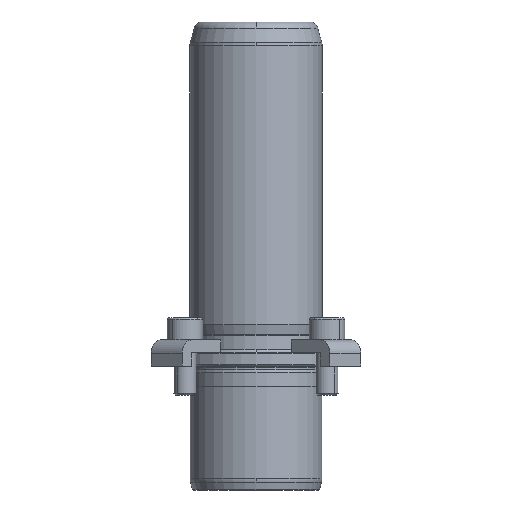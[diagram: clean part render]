
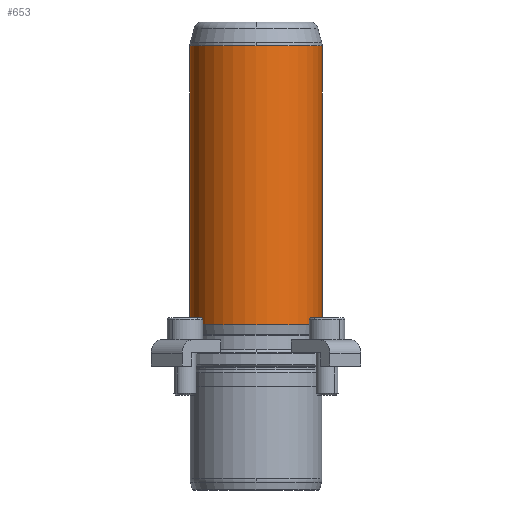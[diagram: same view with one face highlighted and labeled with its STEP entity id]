
A CAD part, front view. The second image highlights one B-rep face of the part: STEP entity #653.
In plain terms, the highlighted cylindrical face has radius 24 mm (diameter 48 mm), a partial arc.
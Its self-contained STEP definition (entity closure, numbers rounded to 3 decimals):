
#566=CARTESIAN_POINT('',(0.0,-24.,116.342));
#567=VERTEX_POINT('',#566);
#594=CARTESIAN_POINT('',(-24.0,0.,116.342));
#595=VERTEX_POINT('',#594);
#603=CARTESIAN_POINT('',(0.0,0.,116.342));
#604=DIRECTION('',(0.0,0.0,1.0));
#605=DIRECTION('',(1.0,0.0,0.0));
#606=AXIS2_PLACEMENT_3D('',#603,#604,#605);
#607=CIRCLE('',#606,24.0);
#608=EDGE_CURVE('',#595,#567,#607,.T.);
#613=CARTESIAN_POINT('',(0.0,0.,65.671));
#614=DIRECTION('',(0.0,0.,1.0));
#615=DIRECTION('',(1.0,0.0,0.0));
#616=AXIS2_PLACEMENT_3D('',#613,#614,#615);
#617=CYLINDRICAL_SURFACE('',#616,24.0);
#618=CARTESIAN_POINT('',(24.0,0.,116.342));
#619=VERTEX_POINT('',#618);
#620=CARTESIAN_POINT('',(24.0,0.,15.0));
#621=VERTEX_POINT('',#620);
#622=CARTESIAN_POINT('',(24.0,0.,116.342));
#623=DIRECTION('',(0.0,0.0,-1.0));
#624=VECTOR('',#623,101.342);
#625=LINE('',#622,#624);
#626=EDGE_CURVE('',#619,#621,#625,.T.);
#627=ORIENTED_EDGE('',*,*,#626,.F.);
#628=CARTESIAN_POINT('',(0.0,0.,116.342));
#629=DIRECTION('',(0.0,0.0,1.0));
#630=DIRECTION('',(1.0,0.0,0.0));
#631=AXIS2_PLACEMENT_3D('',#628,#629,#630);
#632=CIRCLE('',#631,24.0);
#633=EDGE_CURVE('',#567,#619,#632,.T.);
#634=ORIENTED_EDGE('',*,*,#633,.F.);
#635=ORIENTED_EDGE('',*,*,#608,.F.);
#636=CARTESIAN_POINT('',(-24.,0.,15.0));
#637=VERTEX_POINT('',#636);
#638=CARTESIAN_POINT('',(-24.0,0.,116.342));
#639=DIRECTION('',(0.0,0.0,-1.0));
#640=VECTOR('',#639,101.342);
#641=LINE('',#638,#640);
#642=EDGE_CURVE('',#595,#637,#641,.T.);
#643=ORIENTED_EDGE('',*,*,#642,.T.);
#644=CARTESIAN_POINT('',(0.0,0.,15.0));
#645=DIRECTION('',(0.0,0.0,1.0));
#646=DIRECTION('',(1.0,0.0,0.0));
#647=AXIS2_PLACEMENT_3D('',#644,#645,#646);
#648=CIRCLE('',#647,24.0);
#649=EDGE_CURVE('',#637,#621,#648,.T.);
#650=ORIENTED_EDGE('',*,*,#649,.T.);
#651=EDGE_LOOP('',(#627,#634,#635,#643,#650));
#652=FACE_OUTER_BOUND('',#651,.T.);
#653=ADVANCED_FACE('',(#652),#617,.T.);
